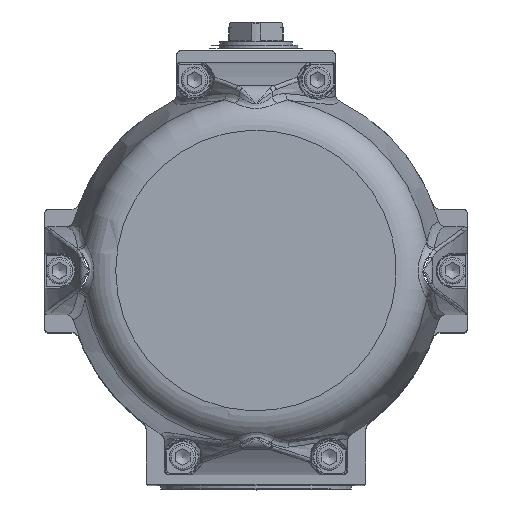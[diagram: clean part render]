
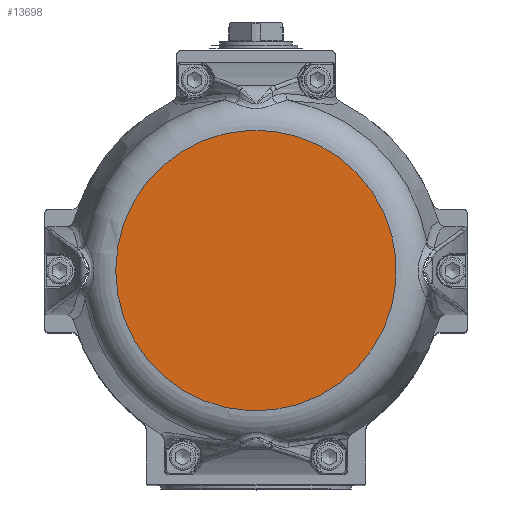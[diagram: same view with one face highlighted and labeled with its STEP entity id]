
A CAD part, top view. The second image highlights one B-rep face of the part: STEP entity #13698.
In plain terms, the highlighted planar face has unit normal (0, 0, 1).
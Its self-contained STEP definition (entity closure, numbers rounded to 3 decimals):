
#10167=CARTESIAN_POINT('',(-95.678,0.,324.5));
#10168=VERTEX_POINT('',#10167);
#10169=CARTESIAN_POINT('',(0.0,0.,324.5));
#10170=DIRECTION('',(0.0,0.0,-1.0));
#10171=DIRECTION('',(-1.0,0.0,0.0));
#10172=AXIS2_PLACEMENT_3D('',#10169,#10170,#10171);
#10173=CIRCLE('',#10172,95.678);
#10174=EDGE_CURVE('',#10168,#10168,#10173,.T.);
#13690=CARTESIAN_POINT('',(-47.839,0.,324.5));
#13691=DIRECTION('',(0.0,0.0,1.0));
#13692=DIRECTION('',(0.0,-1.0,0.0));
#13693=AXIS2_PLACEMENT_3D('',#13690,#13691,#13692);
#13694=PLANE('',#13693);
#13695=ORIENTED_EDGE('',*,*,#10174,.F.);
#13696=EDGE_LOOP('',(#13695));
#13697=FACE_OUTER_BOUND('',#13696,.T.);
#13698=ADVANCED_FACE('',(#13697),#13694,.T.);
